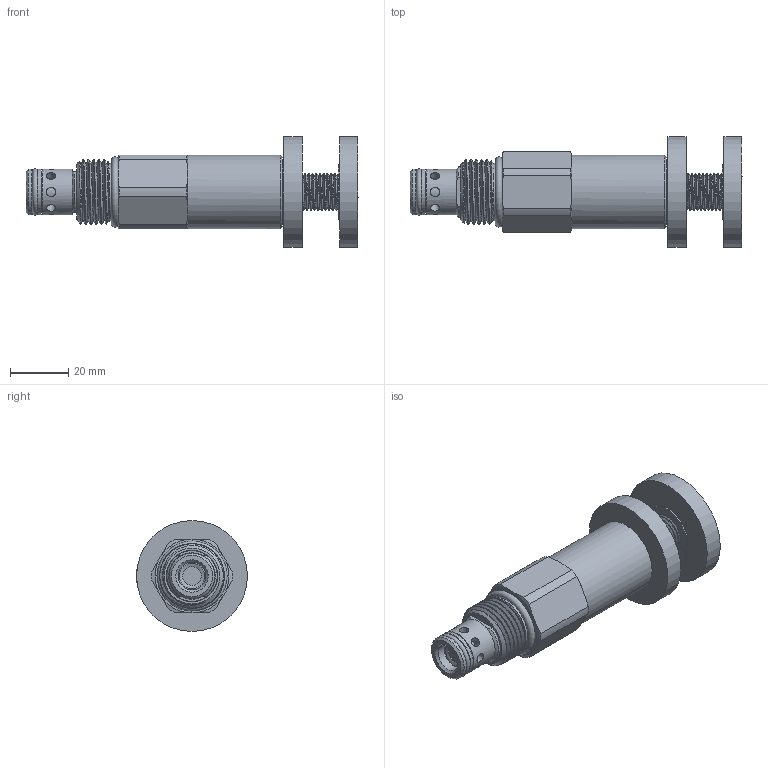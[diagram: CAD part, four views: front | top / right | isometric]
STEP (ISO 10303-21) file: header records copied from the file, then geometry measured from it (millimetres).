
FILE_DESCRIPTION(/* description */ ('DE-RVP-0K-4000'),/* implementation_level */ '2;1');
FILE_NAME(/* name */ 'R:\Solids\Valve Solids exterior\Solids (.STEP)\DERVP0K-3D Full.stp',/* time_stamp */ '2023-11-13T13:59:44-06:00',/* author */ ('jared'),/* organization */ (''),/* preprocessor_version */ 'ST-DEVELOPER v17',/* originating_system */ 'Autodesk Inventor 2019',/* authorisation */ '');
FILE_SCHEMA (('AUTOMOTIVE_DESIGN { 1 0 10303 214 3 1 1 }'));
Length unit declared in the file: inch
Products named in the file (1): 85002419
Bounding box: 114.07 x 38.1 x 38.1 mm (x, y, z)
Volume: 53152.3 mm3; surface area: 15810.1 mm2
Topology: 1 solids, 2 shells, 198 faces, 569 edges, 396 vertices
Faces by surface type: cylinder 79, plane 55, bspline 34, cone 25, torus 5
Full cylindrical faces by diameter (mm): 3.175 x8, 3.683 x2, 6.35 x2, 9.515 x1, 9.53 x1, 11.328 x1, 12.7 x9, 12.992 x3, 15.684 x1, 15.761 x2, 19.05 x2, 19.621 x2, 22.225 x4, 25.4 x1, 38.1 x2
Entity records: 18768 total; most frequent: CARTESIAN_POINT 13893, ORIENTED_EDGE 1132, DIRECTION 735, EDGE_CURVE 566, VERTEX_POINT 395, AXIS2_PLACEMENT_3D 314, B_SPLINE_CURVE_WITH_KNOTS 277, EDGE_LOOP 228
